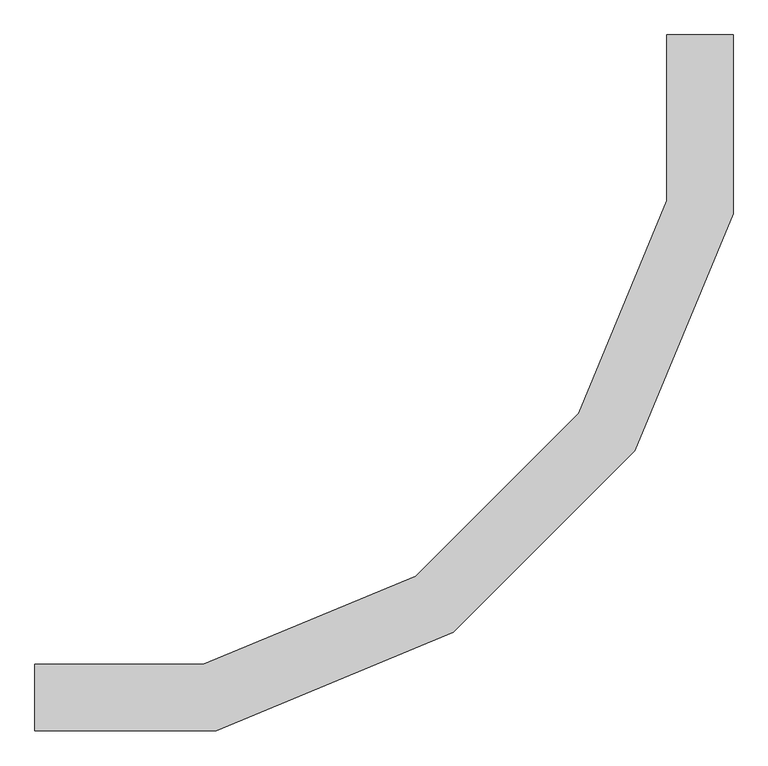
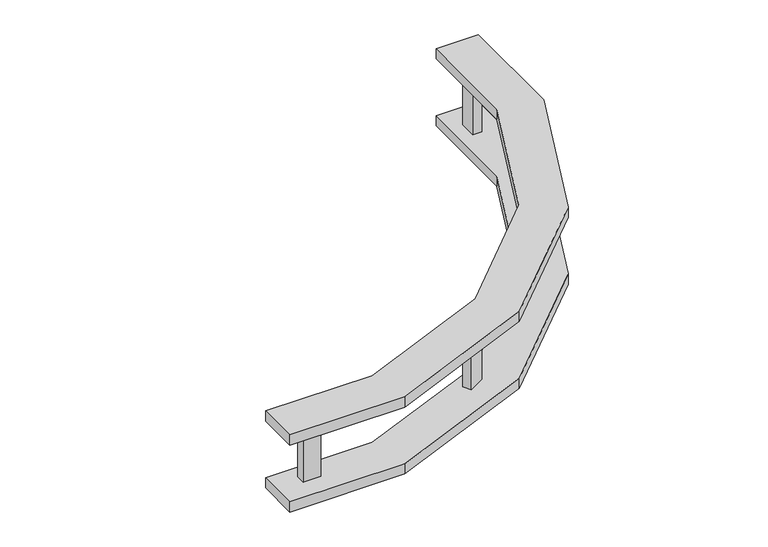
"""IFC4 building model written with IfcOpenShell, lengths in millimetres: cable carrier fitting geometry, Legrand_CableLadder_Swifts_Topaz_OutsideRiser-13 : Hot Dip Galvanised (after manufacture)."""

import ifcopenshell
import ifcopenshell.guid

model = None  # the IFC model being written
_history = None  # IfcOwnerHistory: only IFC2X3 demands one
_inside = {}  # id of a spatial element -> (the spatial element, [elements in it])
_under = {}  # id of a project, library or spatial element -> (it, [spatial elements below it])
_declared = {}  # id of a project -> (the project, [libraries it declares])
_typed = {}  # id of a type object -> (the type object, [elements of that type])
_made_of = {}  # id of a material, layer set ... -> (it, [elements and type objects made of it])


def new_model(schema):
    """Start an empty IFC model of exactly this schema.

    Asked for "IFC4X3", IfcOpenShell would pick the latest addendum, in which some entities
    have other attributes; the version numbers below select the first issue.
    IFC2X3 requires an IfcOwnerHistory on every rooted entity: one is made here for all.
    """
    global model, _history
    if schema == "IFC4X3":
        model = ifcopenshell.file(schema_version=(4, 3, 0, 0))
    else:
        model = ifcopenshell.file(schema=schema)
    _inside.clear()
    _under.clear()
    _declared.clear()
    _typed.clear()
    _made_of.clear()
    _history = None
    if model.schema == "IFC2X3":
        org = make("IfcOrganization", Name="unknown")
        user = make(
            "IfcPersonAndOrganization",
            ThePerson=make("IfcPerson", FamilyName="unknown"),
            TheOrganization=org,
        )
        app = make(
            "IfcApplication",
            ApplicationDeveloper=org,
            Version="unknown",
            ApplicationFullName="unknown",
            ApplicationIdentifier="unknown",
        )
        _history = make(
            "IfcOwnerHistory",
            OwningUser=user,
            OwningApplication=app,
            ChangeAction="ADDED",
            CreationDate=0,
        )
    return model


def make(cls, **values):
    """One entity of the class cls with the attributes given. An attribute that is None is left unset."""
    return model.create_entity(
        cls, **{name: value for name, value in values.items() if value is not None}
    )


def rooted(cls, **values):
    """An entity with a GlobalId (a new one), such as an element, a storey or a relation."""
    return make(cls, GlobalId=ifcopenshell.guid.new(), OwnerHistory=_history, **values)


def si_unit(unit_type, name, prefix=None):
    """IfcSIUnit, for example si_unit("LENGTHUNIT", "METRE", prefix="MILLI")."""
    return make("IfcSIUnit", UnitType=unit_type, Prefix=prefix, Name=name)


def assignment(units):
    """IfcUnitAssignment: the units of a project."""
    return None if units is None else make("IfcUnitAssignment", Units=units)


def point(xyz):
    """IfcCartesianPoint."""
    return None if xyz is None else make("IfcCartesianPoint", Coordinates=xyz)


def direction(xyz):
    """IfcDirection."""
    return None if xyz is None else make("IfcDirection", DirectionRatios=xyz)


def frame(location, z_axis=None, x_axis=None):
    """IfcAxis2Placement3D, a coordinate frame: its origin and axes. An axis left out is left unset."""
    return make(
        "IfcAxis2Placement3D",
        Location=point(location),
        Axis=direction(z_axis),
        RefDirection=direction(x_axis),
    )


def origin():
    """The frame at (0, 0, 0) with its axes left unset."""
    return frame((0.0, 0.0, 0.0))


def place(relative_to, where):
    """IfcLocalPlacement: puts the frame where relative to a parent placement (None: the world)."""
    return make(
        "IfcLocalPlacement", PlacementRelTo=relative_to, RelativePlacement=where
    )


def context(
    kind, dimensions, precision=None, world=None, true_north=None, identifier=None
):
    """IfcGeometricRepresentationContext, for example the 3D "Model" context."""
    return make(
        "IfcGeometricRepresentationContext",
        ContextIdentifier=identifier,
        ContextType=kind,
        CoordinateSpaceDimension=dimensions,
        Precision=precision,
        WorldCoordinateSystem=world,
        TrueNorth=true_north,
    )


def project(units=None, contexts=None):
    """IfcProject with its units and contexts."""
    return rooted(
        "IfcProject",
        Name="project",
        RepresentationContexts=contexts,
        UnitsInContext=assignment(units),
    )


def spatial(cls, under=None, at=None, **own):
    """A site, building, storey or space (cls), placed at a placement, below another one or the project."""
    s = rooted(cls, ObjectPlacement=at, **own)
    if under is not None:
        _under.setdefault(under.id(), (under, []))[1].append(s)
    return s


def polyline(points):
    """IfcPolyline through the points."""
    return make("IfcPolyline", Points=[point(p) for p in points])


def outline(outer, holes=None, kind="AREA"):
    """IfcArbitraryClosedProfileDef: a profile drawn as a closed curve; with holes, ...WithVoids."""
    if holes is None:
        return make("IfcArbitraryClosedProfileDef", ProfileType=kind, OuterCurve=outer)
    return make(
        "IfcArbitraryProfileDefWithVoids",
        ProfileType=kind,
        OuterCurve=outer,
        InnerCurves=holes,
    )


def extrude(swept, where, along, depth):
    """IfcExtrudedAreaSolid: the profile swept, set in the frame where, extruded along a direction by depth."""
    return make(
        "IfcExtrudedAreaSolid",
        SweptArea=swept,
        Position=where,
        ExtrudedDirection=direction(along),
        Depth=depth,
    )


def shape(context_of_items, identifier, shape_type, items):
    """IfcShapeRepresentation: the items that make up one representation, for example the "Body"."""
    return make(
        "IfcShapeRepresentation",
        ContextOfItems=context_of_items,
        RepresentationIdentifier=identifier,
        RepresentationType=shape_type,
        Items=items,
    )


def source(mapping_origin, context_of_items, identifier, shape_type, items):
    """IfcRepresentationMap: a shape defined once, which mapped items show again and again."""
    return make(
        "IfcRepresentationMap",
        MappingOrigin=mapping_origin,
        MappedRepresentation=shape(context_of_items, identifier, shape_type, items),
    )


def transform(
    local_origin,
    x_axis=None,
    y_axis=None,
    z_axis=None,
    scale=None,
    scale2=None,
    scale3=None,
    uniform=True,
):
    """IfcCartesianTransformationOperator3D, or its non-uniform kind. x_axis, y_axis, z_axis: its Axis1, 2, 3."""
    if uniform:
        return make(
            "IfcCartesianTransformationOperator3D",
            Axis1=direction(x_axis),
            Axis2=direction(y_axis),
            LocalOrigin=point(local_origin),
            Scale=scale,
            Axis3=direction(z_axis),
        )
    return make(
        "IfcCartesianTransformationOperator3DnonUniform",
        Axis1=direction(x_axis),
        Axis2=direction(y_axis),
        LocalOrigin=point(local_origin),
        Scale=scale,
        Axis3=direction(z_axis),
        Scale2=scale2,
        Scale3=scale3,
    )


def mapped(mapping_source, mapping_target):
    """IfcMappedItem: shows the shape of a source again, moved by a transform."""
    return make(
        "IfcMappedItem", MappingSource=mapping_source, MappingTarget=mapping_target
    )


def made_of(thing, what):
    """Note that an element or type object is made of a material, layer set ...; save() writes the relation."""
    if what is not None:
        _made_of.setdefault(what.id(), (what, []))[1].append(thing)
    return thing


def element(
    cls,
    number,
    at=None,
    inside=None,
    cuts=None,
    type_object=None,
    material=None,
    context=None,
    identifier="Body",
    shape_type=None,
    held_by="IfcProductDefinitionShape",
    body=None,
    shapes=None,
    **own,
):
    """One element of the class cls, such as IfcWall. Its Tag is "e" and its number.

    at: its placement. inside: the storey or other place that contains it. cuts: it is an
    opening in that element (IfcRelVoidsElement). A single representation is given by context,
    identifier, shape_type and body (its items); several are given by shapes. held_by: the class
    of the entity that holds the representations. save() writes the other relations.
    """
    e = rooted(cls, Tag="e%d" % number, ObjectPlacement=at, **own)
    if body is not None:
        shapes = [shape(context, identifier, shape_type, body)]
    if shapes is not None:
        e.Representation = make(held_by, Representations=shapes)
    if inside is not None:
        _inside.setdefault(inside.id(), (inside, []))[1].append(e)
    if cuts is not None:
        rooted(
            "IfcRelVoidsElement", RelatingBuildingElement=cuts, RelatedOpeningElement=e
        )
    if type_object is not None:
        _typed.setdefault(type_object.id(), (type_object, []))[1].append(e)
    return made_of(e, material)


def aggregate(whole, parts):
    """IfcRelAggregates: a whole, such as a stair, and the parts it consists of."""
    return rooted("IfcRelAggregates", RelatingObject=whole, RelatedObjects=parts)


def save(model, path):
    """Write the relations noted so far, then the file.

    IfcRelAggregates (storeys below a building ...), IfcRelContainedInSpatialStructure (elements
    in a storey), IfcRelDefinesByType, IfcRelAssociatesMaterial and IfcRelDeclares: one each for
    every whole, place, type object, material and project.
    """
    for whole, parts in _under.values():
        aggregate(whole, parts)
    for where, things in _inside.values():
        rooted(
            "IfcRelContainedInSpatialStructure",
            RelatedElements=things,
            RelatingStructure=where,
        )
    for kind, things in _typed.values():
        rooted("IfcRelDefinesByType", RelatedObjects=things, RelatingType=kind)
    for what, things in _made_of.values():
        rooted("IfcRelAssociatesMaterial", RelatedObjects=things, RelatingMaterial=what)
    for by, libraries in _declared.values():
        rooted("IfcRelDeclares", RelatingContext=by, RelatedDefinitions=libraries)
    model.write(path)


def cable_carrier_fitting_72d6f9a9(model_context):
    return source(origin(), model_context, "Body", "SweptSolid", [
        extrude(outline(polyline([(-490.4365335, 129.9479715), (-454.0634665, 150.9479715), (-443.5634665, 132.761438), (-479.9365335, 111.761438), (-490.4365335, 129.9479715)])), frame((0.0, 0.0, -71.5), z_axis=(0.0, 0.0, 1.0), x_axis=(1.0, 0.0, 0.0)), (0.0, 0.0, 1.0), 143.0),
        extrude(outline(polyline([(-150.9479715, 454.0634665), (-129.9479715, 490.4365335), (-111.761438, 479.9365335), (-132.761438, 443.5634665), (-150.9479715, 454.0634665)])), frame((0.0, 0.0, -71.5), z_axis=(0.0, 0.0, 1.0), x_axis=(1.0, 0.0, 0.0)), (0.0, 0.0, 1.0), 143.0),
        extrude(outline(polyline([(-946.5, 19.0), (-904.5, 19.0), (-904.5, -2.0), (-946.5, -2.0), (-946.5, 19.0)])), frame((0.0, 0.0, -71.5), z_axis=(0.0, 0.0, 1.0), x_axis=(1.0, 0.0, 0.0)), (0.0, 0.0, 1.0), 143.0),
        extrude(outline(polyline([(-19.0, 904.5), (-19.0, 946.5), (2.0, 946.5), (2.0, 904.5), (-19.0, 904.5)])), frame((0.0, 0.0, -71.5), z_axis=(0.0, 0.0, 1.0), x_axis=(1.0, 0.0, 0.0)), (0.0, 0.0, 1.0), 143.0),
        extrude(outline(polyline([(-731.4609856, -50.0), (-1005.5, -50.0), (-1005.5, 50.0), (-751.3522224, 50.0), (-429.5690876, 183.2869386), (-183.2869386, 429.5690876), (-50.0, 751.3522224), (-50.0, 1001.7), (50.0, 1001.7), (50.0, 731.4609856), (-98.5110321, 372.9236378), (-372.9236378, 98.5110321), (-731.4609856, -50.0)])), frame((0.0, 0.0, -97.0), z_axis=(0.0, 0.0, 1.0), x_axis=(1.0, 0.0, 0.0)), (0.0, 0.0, 1.0), 25.5),
        extrude(outline(polyline([(-1005.5, -50.0), (-1005.5, 50.0), (-751.3522224, 50.0), (-429.5690876, 183.2869386), (-183.2869386, 429.5690876), (-50.0, 751.3522224), (-50.0, 1001.7), (50.0, 1001.7), (50.0, 731.4609856), (-98.5110321, 372.9236378), (-372.9236378, 98.5110321), (-731.4609856, -50.0), (-1005.5, -50.0)])), frame((0.0, 0.0, 71.5), z_axis=(0.0, 0.0, 1.0), x_axis=(1.0, 0.0, 0.0)), (0.0, 0.0, 1.0), 25.5),
    ])


if __name__ == "__main__":
    model = new_model("IFC4")
    model_context = context("Model", 3, world=origin())
    ifc_project = project(units=[si_unit("LENGTHUNIT", "METRE", prefix="MILLI")], contexts=[model_context])
    site = spatial("IfcSite", under=ifc_project)
    building = spatial("IfcBuilding", under=site)
    placement = place(None, origin())
    cable_carrier_fitting_shape = cable_carrier_fitting_72d6f9a9(model_context)
    element("IfcCableCarrierFitting", 1, ObjectType="Legrand_CableLadder_Swifts_Topaz_OutsideRiser-13 : Hot Dip Galvanised (after manufacture)", at=placement, inside=building, context=model_context, shape_type="MappedRepresentation", body=[
        mapped(cable_carrier_fitting_shape, transform((0.0, 0.0, 0.0), x_axis=(1.0, 0.0, 0.0), y_axis=(0.0, 1.0, 0.0), z_axis=(0.0, 0.0, 1.0))),
    ])
    save(model, "model.ifc")
